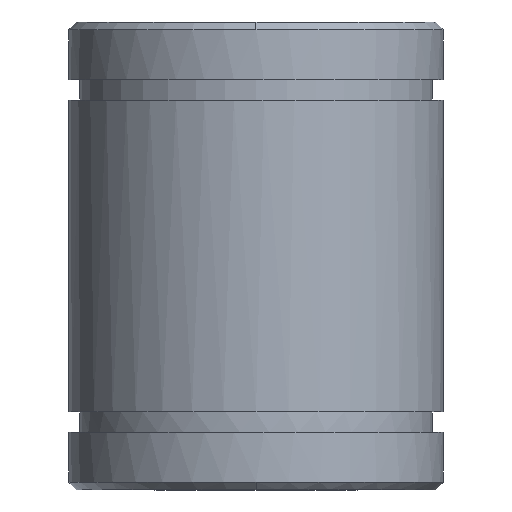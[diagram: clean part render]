
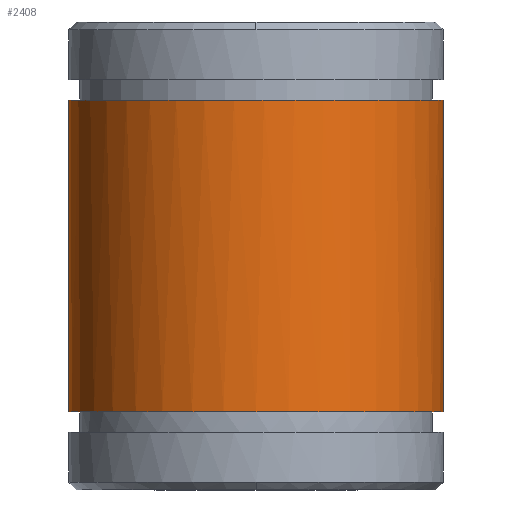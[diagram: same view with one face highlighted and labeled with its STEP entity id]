
A CAD part, front view. The second image highlights one B-rep face of the part: STEP entity #2408.
In plain terms, the highlighted cylindrical face has radius 12 mm (diameter 24 mm), a partial arc.
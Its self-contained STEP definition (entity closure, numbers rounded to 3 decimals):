
#2160=CARTESIAN_POINT('Control Point',(-12.,0.,25.)) ;
#2161=CARTESIAN_POINT('Control Point',(-12.,-1.188,25.)) ;
#2162=CARTESIAN_POINT('Control Point',(-11.853,-2.376,25.)) ;
#2163=CARTESIAN_POINT('Control Point',(-11.559,-3.54,25.)) ;
#2164=CARTESIAN_POINT('Control Point',(-10.689,-5.77,25.)) ;
#2165=CARTESIAN_POINT('Control Point',(-9.302,-7.721,25.)) ;
#2166=CARTESIAN_POINT('Control Point',(-8.49,-8.605,25.)) ;
#2167=CARTESIAN_POINT('Control Point',(-6.665,-10.155,25.)) ;
#2168=CARTESIAN_POINT('Control Point',(-4.518,-11.213,25.)) ;
#2169=CARTESIAN_POINT('Control Point',(-3.384,-11.606,25.)) ;
#2170=CARTESIAN_POINT('Control Point',(-1.042,-12.102,25.)) ;
#2171=CARTESIAN_POINT('Control Point',(1.351,-12.013,25.)) ;
#2172=CARTESIAN_POINT('Control Point',(2.535,-11.82,25.)) ;
#2173=CARTESIAN_POINT('Control Point',(4.832,-11.145,25.)) ;
#2174=CARTESIAN_POINT('Control Point',(6.895,-9.93,25.)) ;
#2175=CARTESIAN_POINT('Control Point',(7.845,-9.197,25.)) ;
#2176=CARTESIAN_POINT('Control Point',(9.546,-7.512,25.)) ;
#2177=CARTESIAN_POINT('Control Point',(10.784,-5.463,25.)) ;
#2178=CARTESIAN_POINT('Control Point',(11.273,-4.367,25.)) ;
#2179=CARTESIAN_POINT('Control Point',(11.741,-2.824,25.)) ;
#2180=CARTESIAN_POINT('Control Point',(11.947,-1.236,25.)) ;
#2181=CARTESIAN_POINT('Control Point',(11.982,-0.824,25.)) ;
#2182=CARTESIAN_POINT('Control Point',(12.,-0.412,25.)) ;
#2183=CARTESIAN_POINT('Control Point',(12.,0.,25.)) ;
#2184=CARTESIAN_POINT('Vertex',(-12.,0.,25.)) ;
#2186=CARTESIAN_POINT('Vertex',(12.,0.,25.)) ;
#2378=CARTESIAN_POINT('Axis2P3D Location',(0.,0.,-1.5)) ;
#2383=CARTESIAN_POINT('Line Origine',(-12.,0.,-1.5)) ;
#2387=CARTESIAN_POINT('Vertex',(-12.,0.,5.)) ;
#2390=CARTESIAN_POINT('Axis2P3D Location',(0.,0.,5.)) ;
#2394=CARTESIAN_POINT('Vertex',(12.,0.,5.)) ;
#2397=CARTESIAN_POINT('Line Origine',(12.,0.,-1.5)) ;
#2379=DIRECTION('Axis2P3D Direction',(0.,0.,1.)) ;
#2380=DIRECTION('Axis2P3D XDirection',(-1.,0.,0.)) ;
#2384=DIRECTION('Vector Direction',(0.,0.,1.)) ;
#2391=DIRECTION('Axis2P3D Direction',(0.,0.,1.)) ;
#2398=DIRECTION('Vector Direction',(0.,0.,1.)) ;
#2381=AXIS2_PLACEMENT_3D('Cylinder Axis2P3D',#2378,#2379,#2380) ;
#2392=AXIS2_PLACEMENT_3D('Circle Axis2P3D',#2390,#2391,$) ;
#2403=ORIENTED_EDGE('',*,*,#2389,.T.) ;
#2404=ORIENTED_EDGE('',*,*,#2396,.T.) ;
#2405=ORIENTED_EDGE('',*,*,#2401,.F.) ;
#2406=ORIENTED_EDGE('',*,*,#2188,.F.) ;
#2385=VECTOR('Line Direction',#2384,1.) ;
#2399=VECTOR('Line Direction',#2398,1.) ;
#2408=ADVANCED_FACE('MANIFOLD_SOLID_BREP #1865',(#2407),#2382,.T.) ;
#2159=B_SPLINE_CURVE_WITH_KNOTS('',5,(#2160,#2161,#2162,#2163,#2164,#2165,#2166,#2167,#2168,#2169,#2170,#2171,#2172,#2173,#2174,#2175,#2176,#2177,#2178,#2179,#2180,#2181,#2182,#2183),.UNSPECIFIED.,.F.,.U.,(6,3,3,3,3,3,3,6),(0.,8.4,16.8,25.2,33.6,42.,50.399,53.312),.UNSPECIFIED.) ;
#2393=CIRCLE('generated circle',#2392,12.) ;
#2382=CYLINDRICAL_SURFACE('generated cylinder',#2381,12.) ;
#2188=EDGE_CURVE('',#2185,#2187,#2159,.T.) ;
#2389=EDGE_CURVE('',#2185,#2388,#2386,.F.) ;
#2396=EDGE_CURVE('',#2388,#2395,#2393,.T.) ;
#2401=EDGE_CURVE('',#2187,#2395,#2400,.F.) ;
#2402=EDGE_LOOP('',(#2403,#2404,#2405,#2406)) ;
#2407=FACE_OUTER_BOUND('',#2402,.T.) ;
#2386=LINE('Line',#2383,#2385) ;
#2400=LINE('Line',#2397,#2399) ;
#2185=VERTEX_POINT('',#2184) ;
#2187=VERTEX_POINT('',#2186) ;
#2388=VERTEX_POINT('',#2387) ;
#2395=VERTEX_POINT('',#2394) ;
